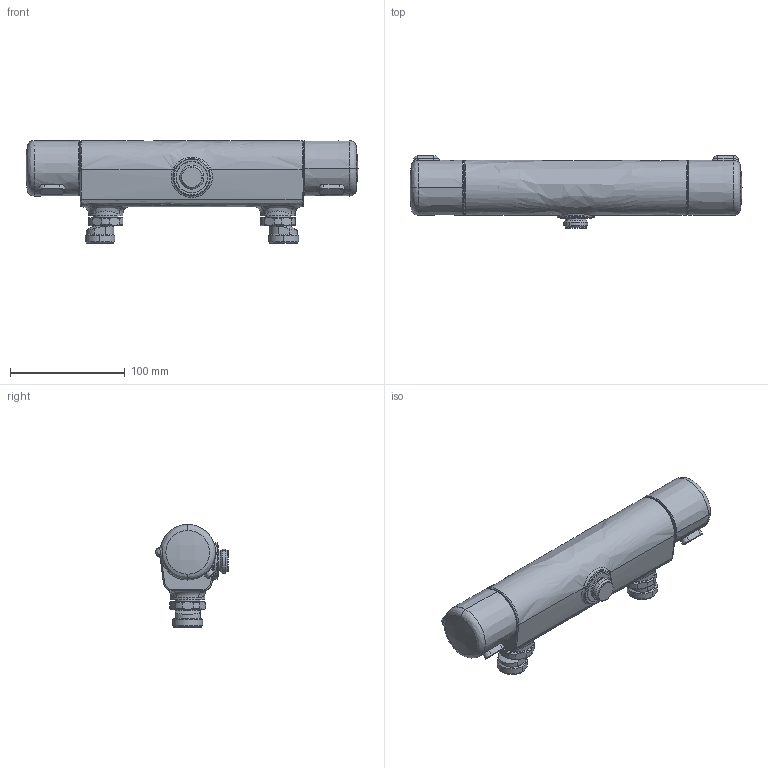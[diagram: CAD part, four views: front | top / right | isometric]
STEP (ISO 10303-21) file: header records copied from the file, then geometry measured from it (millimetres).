
FILE_DESCRIPTION (( 'STEP AP203' ), '1' );
FILE_NAME ('7464GL(2022).STEP', '2022-03-03T12:10:40', ( '' ), ( '' ), 'SwSTEP 2.0', 'SolidWorks 2016', '' );
FILE_SCHEMA (( 'CONFIG_CONTROL_DESIGN' ));
Length unit declared in the file: millimetre
Products named in the file (1): 7464GL(2022)
Bounding box: 289.19 x 63.4 x 89.67 mm (x, y, z)
Volume: 675942.4 mm3; surface area: 63439.4 mm2
Topology: 1 solids, 1 shells, 233 faces, 554 edges, 335 vertices
Faces by surface type: cylinder 61, bspline 52, cone 52, plane 46, torus 16, sphere 6
Entity records: 11250 total; most frequent: CARTESIAN_POINT 6115, ORIENTED_EDGE 1104, DIRECTION 1019, EDGE_CURVE 552, AXIS2_PLACEMENT_3D 437, VERTEX_POINT 335, CIRCLE 255, EDGE_LOOP 247
